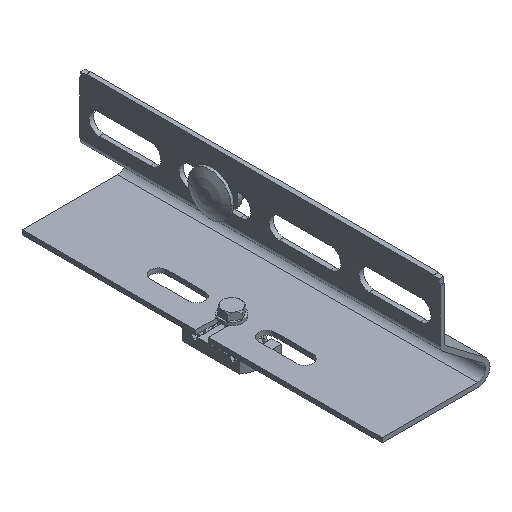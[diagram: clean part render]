
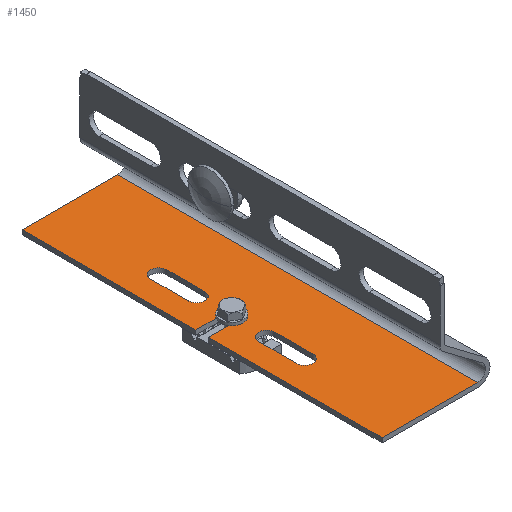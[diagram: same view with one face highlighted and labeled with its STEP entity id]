
A CAD part, isometric view. The second image highlights one B-rep face of the part: STEP entity #1450.
In plain terms, the highlighted planar face has unit normal (0, 0, 1) as drawn and (0, 1, -0.017) by its records, which use the part's own axes.
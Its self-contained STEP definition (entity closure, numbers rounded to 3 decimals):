
#10=CARTESIAN_POINT('',(100.,-20.75,16.398));
#20=DIRECTION('',(0.,1.,
-0.017));
#30=DIRECTION('',(0.,-0.017,
-1.));
#40=AXIS2_PLACEMENT_3D('',#10,#20,#30);
#50=PLANE('',#40);
#60=CARTESIAN_POINT('',(96.5,-21.04,
-0.25));
#70=DIRECTION('',(0.,-0.017,
-1.));
#80=VECTOR('',#70,1.);
#90=LINE('',#60,#80);
#100=CARTESIAN_POINT('',(96.5,-20.357,
38.895));
#110=VERTEX_POINT('',#100);
#120=CARTESIAN_POINT('',(96.5,-20.645,
22.398));
#130=VERTEX_POINT('',#120);
#140=EDGE_CURVE('',#110,#130,#90,.T.);
#150=ORIENTED_EDGE('',*,*,#140,.T.);
#160=CARTESIAN_POINT('',(0.,-20.357,
38.895));
#170=DIRECTION('',(1.,0.,0.));
#180=VECTOR('',#170,1.);
#190=LINE('',#160,#180);
#200=CARTESIAN_POINT('',(0.,-20.357,
38.895));
#210=VERTEX_POINT('',#200);
#220=EDGE_CURVE('',#210,#110,#190,.T.);
#230=ORIENTED_EDGE('',*,*,#220,.T.);
#240=CARTESIAN_POINT('',(0.,-21.26,
-12.845));
#250=DIRECTION('',(0.,-0.017,
-1.));
#260=VECTOR('',#250,1.);
#270=LINE('',#240,#260);
#280=CARTESIAN_POINT('',(0.,-21.282,
-14.093));
#290=VERTEX_POINT('',#280);
#300=EDGE_CURVE('',#210,#290,#270,.T.);
#310=ORIENTED_EDGE('',*,*,#300,.F.);
#320=CARTESIAN_POINT('',(200.,-21.282,-14.093));
#330=DIRECTION('',(-1.,0.,0.));
#340=VECTOR('',#330,1.);
#350=LINE('',#320,#340);
#360=CARTESIAN_POINT('',(200.,-21.282,-14.093));
#370=VERTEX_POINT('',#360);
#380=EDGE_CURVE('',#370,#290,#350,.T.);
#390=ORIENTED_EDGE('',*,*,#380,.T.);
#400=CARTESIAN_POINT('',(200.,-21.857,-47.019));
#410=DIRECTION('',(0.,0.017,
1.));
#420=VECTOR('',#410,1.);
#430=LINE('',#400,#420);
#440=CARTESIAN_POINT('',(200.,-20.357,38.895));
#450=VERTEX_POINT('',#440);
#460=EDGE_CURVE('',#370,#450,#430,.T.);
#470=ORIENTED_EDGE('',*,*,#460,.F.);
#480=CARTESIAN_POINT('',(0.,-20.357,
38.895));
#490=DIRECTION('',(1.,0.,0.));
#500=VECTOR('',#490,1.);
#510=LINE('',#480,#500);
#520=CARTESIAN_POINT('',(103.5,-20.357,38.895));
#530=VERTEX_POINT('',#520);
#540=EDGE_CURVE('',#530,#450,#510,.T.);
#550=ORIENTED_EDGE('',*,*,#540,.T.);
#560=CARTESIAN_POINT('',(103.5,-21.04,-0.25));
#570=DIRECTION('',(0.,0.017,
1.));
#580=VECTOR('',#570,1.);
#590=LINE('',#560,#580);
#600=CARTESIAN_POINT('',(103.5,-20.645,22.398));
#610=VERTEX_POINT('',#600);
#620=EDGE_CURVE('',#610,#530,#590,.T.);
#630=ORIENTED_EDGE('',*,*,#620,.T.);
#640=CARTESIAN_POINT('',(100.,-20.645,22.398));
#650=DIRECTION('',(0.,-1.,
0.017));
#660=DIRECTION('',(0.,0.017,
1.));
#670=AXIS2_PLACEMENT_3D('',#640,#650,#660);
#680=CIRCLE('',#670,3.5);
#690=EDGE_CURVE('',#130,#610,#680,.T.);
#700=ORIENTED_EDGE('',*,*,#690,.T.);
#710=EDGE_LOOP('',(#700,#630,#550,#470,#390,#310,#230,#150));
#720=FACE_OUTER_BOUND('',#710,.T.);
#730=CARTESIAN_POINT('',(0.,-20.724,
17.898));
#740=DIRECTION('',(1.,0.,0.));
#750=VECTOR('',#740,1.);
#760=LINE('',#730,#750);
#770=CARTESIAN_POINT('',(59.5,-20.724,
17.898));
#780=VERTEX_POINT('',#770);
#790=CARTESIAN_POINT('',(80.5,-20.724,
17.898));
#800=VERTEX_POINT('',#790);
#810=EDGE_CURVE('',#780,#800,#760,.T.);
#820=ORIENTED_EDGE('',*,*,#810,.T.);
#830=CARTESIAN_POINT('',(59.5,-20.645,
22.398));
#840=DIRECTION('',(0.,-1.,
0.017));
#850=DIRECTION('',(0.,0.017,
1.));
#860=AXIS2_PLACEMENT_3D('',#830,#840,#850);
#870=CIRCLE('',#860,4.5);
#880=CARTESIAN_POINT('',(59.5,-20.567,
26.897));
#890=VERTEX_POINT('',#880);
#900=EDGE_CURVE('',#890,#780,#870,.T.);
#910=ORIENTED_EDGE('',*,*,#900,.T.);
#920=CARTESIAN_POINT('',(0.,-20.567,
26.897));
#930=DIRECTION('',(-1.,0.,0.));
#940=VECTOR('',#930,1.);
#950=LINE('',#920,#940);
#960=CARTESIAN_POINT('',(80.5,-20.567,
26.897));
#970=VERTEX_POINT('',#960);
#980=EDGE_CURVE('',#970,#890,#950,.T.);
#990=ORIENTED_EDGE('',*,*,#980,.T.);
#1000=CARTESIAN_POINT('',(80.5,-20.645,
22.398));
#1010=DIRECTION('',(0.,-1.,
0.017));
#1020=DIRECTION('',(0.,0.017,
1.));
#1030=AXIS2_PLACEMENT_3D('',#1000,#1010,#1020);
#1040=CIRCLE('',#1030,4.5);
#1050=EDGE_CURVE('',#800,#970,#1040,.T.);
#1060=ORIENTED_EDGE('',*,*,#1050,.T.);
#1070=EDGE_LOOP('',(#1060,#990,#910,#820));
#1080=FACE_BOUND('',#1070,.T.);
#1090=CARTESIAN_POINT('',(0.,-20.724,
17.898));
#1100=DIRECTION('',(1.,0.,0.));
#1110=VECTOR('',#1100,1.);
#1120=LINE('',#1090,#1110);
#1130=CARTESIAN_POINT('',(119.5,-20.724,17.898));
#1140=VERTEX_POINT('',#1130);
#1150=CARTESIAN_POINT('',(140.5,-20.724,17.898));
#1160=VERTEX_POINT('',#1150);
#1170=EDGE_CURVE('',#1140,#1160,#1120,.T.);
#1180=ORIENTED_EDGE('',*,*,#1170,.T.);
#1190=CARTESIAN_POINT('',(119.5,-20.645,22.398));
#1200=DIRECTION('',(0.,-1.,
0.017));
#1210=DIRECTION('',(0.,0.017,
1.));
#1220=AXIS2_PLACEMENT_3D('',#1190,#1200,#1210);
#1230=CIRCLE('',#1220,4.5);
#1240=CARTESIAN_POINT('',(119.5,-20.567,26.897));
#1250=VERTEX_POINT('',#1240);
#1260=EDGE_CURVE('',#1250,#1140,#1230,.T.);
#1270=ORIENTED_EDGE('',*,*,#1260,.T.);
#1280=CARTESIAN_POINT('',(0.,-20.567,
26.897));
#1290=DIRECTION('',(-1.,0.,0.));
#1300=VECTOR('',#1290,1.);
#1310=LINE('',#1280,#1300);
#1320=CARTESIAN_POINT('',(140.5,-20.567,26.897));
#1330=VERTEX_POINT('',#1320);
#1340=EDGE_CURVE('',#1330,#1250,#1310,.T.);
#1350=ORIENTED_EDGE('',*,*,#1340,.T.);
#1360=CARTESIAN_POINT('',(140.5,-20.645,22.398));
#1370=DIRECTION('',(0.,-1.,
0.017));
#1380=DIRECTION('',(0.,0.017,
1.));
#1390=AXIS2_PLACEMENT_3D('',#1360,#1370,#1380);
#1400=CIRCLE('',#1390,4.5);
#1410=EDGE_CURVE('',#1160,#1330,#1400,.T.);
#1420=ORIENTED_EDGE('',*,*,#1410,.T.);
#1430=EDGE_LOOP('',(#1420,#1350,#1270,#1180));
#1440=FACE_BOUND('',#1430,.T.);
#1450=ADVANCED_FACE('',(#720,#1080,#1440),#50,.T.);
